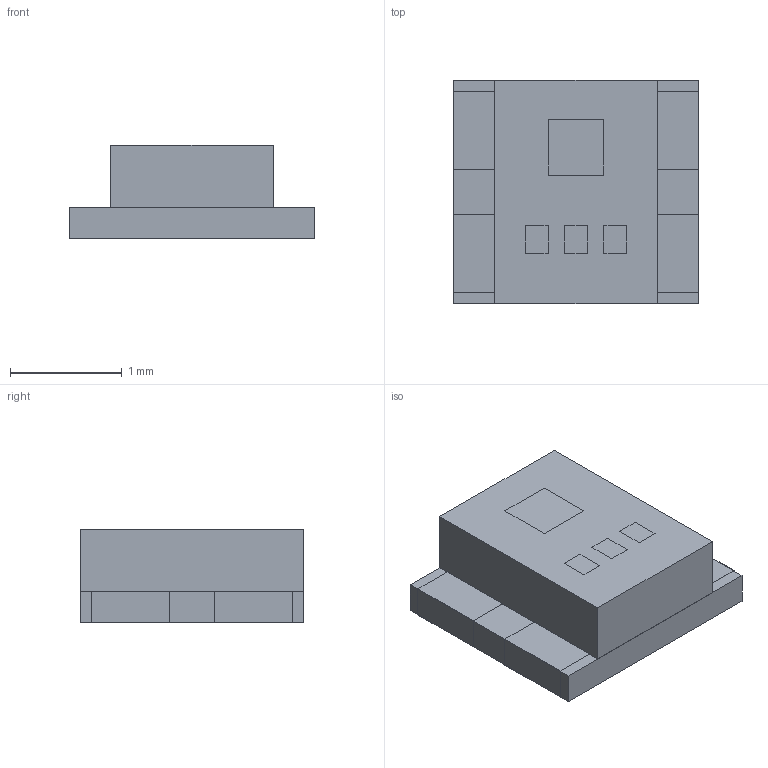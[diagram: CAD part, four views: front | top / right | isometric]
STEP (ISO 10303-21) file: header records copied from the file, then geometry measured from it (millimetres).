
FILE_DESCRIPTION(('Open CASCADE Model'),'2;1');
FILE_NAME('Open CASCADE Shape Model','2026-10-01T14:45:08',('Author'),( 'Open CASCADE'),'Open CASCADE STEP processor 7.9','Open CASCADE 7.9' ,'Unknown');
FILE_SCHEMA(('AUTOMOTIVE_DESIGN { 1 0 10303 214 1 1 1 1 }'));
Length unit declared in the file: millimetre
Products named in the file (10): substrate; optical encapsulation; solder terminal; IC depiction; red die depiction; green die depiction; blue die depiction
Bounding box: 2.2 x 2 x 0.84 mm (x, y, z)
Volume: 3.2 mm3; surface area: 26.3 mm2
Topology: 10 solids, 10 shells, 60 faces, 120 edges, 80 vertices
Faces by surface type: plane 60
Entity records: 3273 total; most frequent: CARTESIAN_POINT 501, DIRECTION 482, LINE 360, VECTOR 360, ORIENTED_EDGE 240, PCURVE 240, DEFINITIONAL_REPRESENTATION 240, EDGE_CURVE 120
